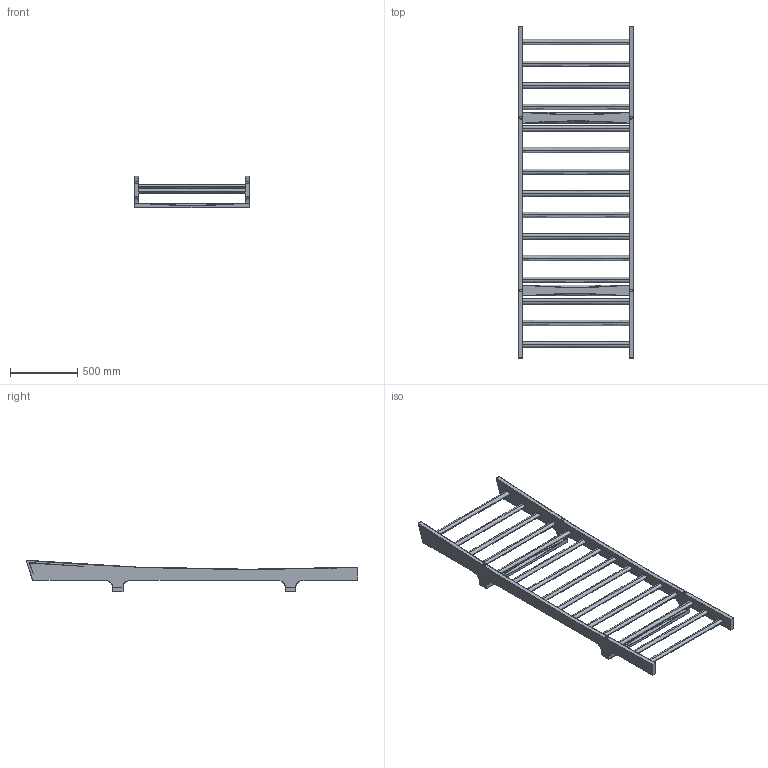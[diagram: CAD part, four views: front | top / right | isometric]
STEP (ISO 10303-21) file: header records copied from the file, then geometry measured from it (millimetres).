
FILE_DESCRIPTION(/* description */ (''),/* implementation_level */ '2;1');
FILE_NAME(/* name */ 'Eternal_Creek_3D_Model_REED_Wall_Bar_With_Crossbars.step',/* time_stamp */ '2025-10-09T16:10:29+03:00',/* author */ (''),/* organization */ (''),/* preprocessor_version */ 'ST-DEVELOPER v20.1',/* originating_system */ 'Autodesk Translation Framework v14.17.0.0',/* authorisation */ '');
FILE_SCHEMA (('AUTOMOTIVE_DESIGN { 1 0 10303 214 3 1 1 }'));
Length unit declared in the file: millimetre
Products named in the file (10): TEMP 3D EXPORT - S - KOPĖ - KOPĖ V04 - WITH CRO
SSBARS; SIDE RAILS; SIDE RAIL - LEFT; SIDE RAIL - RIGHT; RUNGS; RUNG; PLUGS; PLUG; CROSSBARS; CROSSBAR
Assembly tree (27 placements, depth 3):
  TEMP 3D EXPORT - S - KOPĖ - KOPĖ V04 - WITH CRO
SSBARS
    SIDE RAILS
      SIDE RAIL - LEFT
      SIDE RAIL - RIGHT
    RUNGS
      RUNG  x15
    PLUGS
      PLUG  x4
    CROSSBARS
      CROSSBAR  x2
Bounding box: 850 x 2459.57 x 233.87 mm (x, y, z)
Volume: 31856739.9 mm3; surface area: 3303973.6 mm2
Topology: 23 solids, 23 shells, 740 faces, 1792 edges, 1064 vertices
Faces by surface type: bspline 354, cylinder 160, plane 146, sphere 56, torus 24
Full cylindrical faces by diameter (mm): 3 x30, 5 x30, 10.5 x8, 14.1 x8, 19 x4, 19.6 x12, 20 x4
Entity records: 30964 total; most frequent: CARTESIAN_POINT 20501, ORIENTED_EDGE 2446, DIRECTION 1585, EDGE_CURVE 1223, VERTEX_POINT 718, AXIS2_PLACEMENT_3D 620, EDGE_LOOP 615, FACE_OUTER_BOUND 527
